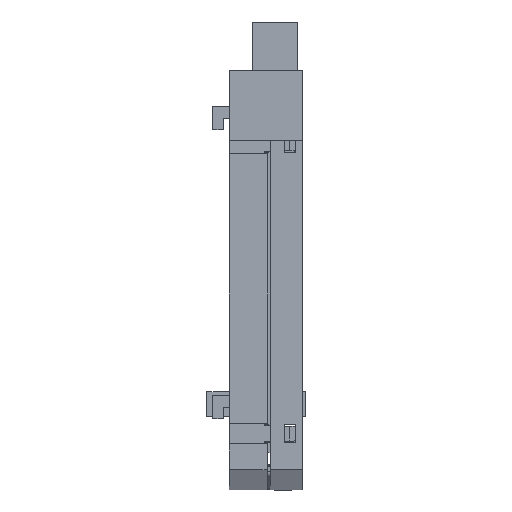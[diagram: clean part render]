
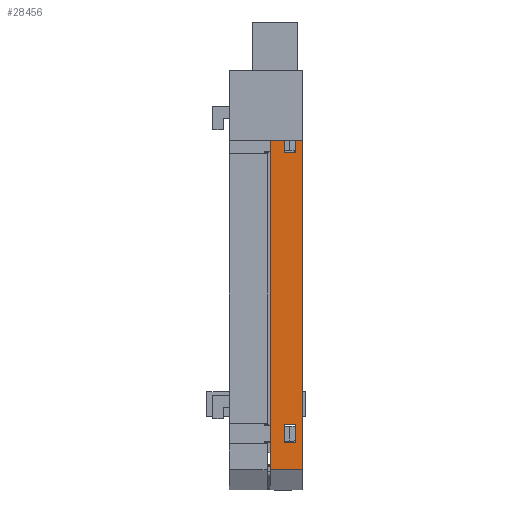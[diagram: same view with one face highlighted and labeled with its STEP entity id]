
A CAD part, front view. The second image highlights one B-rep face of the part: STEP entity #28456.
In plain terms, the highlighted planar face has unit normal (0, -1, 0).
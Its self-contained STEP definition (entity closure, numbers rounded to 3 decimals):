
#219 = FACE_BOUND ( 'NONE', #17106, .T. ) ;
#397 = VERTEX_POINT ( 'NONE', #11373 ) ;
#658 = ORIENTED_EDGE ( 'NONE', *, *, #8067, .T. ) ;
#824 = CARTESIAN_POINT ( 'NONE',  ( 2.4, 0., -60.645 ) ) ;
#897 = VECTOR ( 'NONE', #30969, 1000. ) ;
#1182 = DIRECTION ( 'NONE',  ( 1., 0., 0. ) ) ;
#1310 = EDGE_LOOP ( 'NONE', ( #1733, #25050, #3821, #26102 ) ) ;
#1733 = ORIENTED_EDGE ( 'NONE', *, *, #17854, .T. ) ;
#1747 = VECTOR ( 'NONE', #17191, 1000. ) ;
#1802 = CARTESIAN_POINT ( 'NONE',  ( 2.4, 0., -57.545 ) ) ;
#1806 = EDGE_CURVE ( 'NONE', #14481, #20796, #10193, .T. ) ;
#2235 = DIRECTION ( 'NONE',  ( 0., 0., -1. ) ) ;
#2317 = CARTESIAN_POINT ( 'NONE',  ( 5.5, 0., -65.25 ) ) ;
#2352 = VECTOR ( 'NONE', #12847, 1000. ) ;
#2419 = DIRECTION ( 'NONE',  ( -1., 0., 0. ) ) ;
#2664 = ORIENTED_EDGE ( 'NONE', *, *, #6007, .T. ) ;
#2743 = CARTESIAN_POINT ( 'NONE',  ( 4.4, 0., -57.545 ) ) ;
#3821 = ORIENTED_EDGE ( 'NONE', *, *, #24879, .F. ) ;
#3968 = VECTOR ( 'NONE', #2235, 1000. ) ;
#4788 = CARTESIAN_POINT ( 'NONE',  ( 4.4, 0., -10.945 ) ) ;
#4871 = VECTOR ( 'NONE', #9177, 1000. ) ;
#4964 = DIRECTION ( 'NONE',  ( -1., 0., 0. ) ) ;
#5201 = CARTESIAN_POINT ( 'NONE',  ( 2.4, 0., -57.545 ) ) ;
#5457 = EDGE_CURVE ( 'NONE', #20772, #14481, #30281, .T. ) ;
#5638 = EDGE_CURVE ( 'NONE', #21585, #9687, #26815, .T. ) ;
#5981 = FACE_BOUND ( 'NONE', #6970, .T. ) ;
#6007 = EDGE_CURVE ( 'NONE', #7360, #21585, #12444, .T. ) ;
#6902 = EDGE_CURVE ( 'NONE', #9687, #11118, #27060, .T. ) ;
#6970 = EDGE_LOOP ( 'NONE', ( #658, #2664, #27372, #11218 ) ) ;
#7279 = DIRECTION ( 'NONE',  ( 0., 0., 1. ) ) ;
#7360 = VERTEX_POINT ( 'NONE', #19747 ) ;
#8067 = EDGE_CURVE ( 'NONE', #11118, #7360, #22572, .T. ) ;
#8194 = EDGE_CURVE ( 'NONE', #21940, #397, #19841, .T. ) ;
#8234 = CARTESIAN_POINT ( 'NONE',  ( 2.4, 0., -10.945 ) ) ;
#9177 = DIRECTION ( 'NONE',  ( 1., 0., 0. ) ) ;
#9475 = VECTOR ( 'NONE', #13038, 1000. ) ;
#9687 = VERTEX_POINT ( 'NONE', #2743 ) ;
#9701 = LINE ( 'NONE', #16908, #3968 ) ;
#10193 = LINE ( 'NONE', #25694, #23295 ) ;
#10835 = ORIENTED_EDGE ( 'NONE', *, *, #31674, .T. ) ;
#11118 = VERTEX_POINT ( 'NONE', #12850 ) ;
#11218 = ORIENTED_EDGE ( 'NONE', *, *, #6902, .T. ) ;
#11235 = ORIENTED_EDGE ( 'NONE', *, *, #1806, .T. ) ;
#11272 = CARTESIAN_POINT ( 'NONE',  ( 4.4, 0., -60.645 ) ) ;
#11373 = CARTESIAN_POINT ( 'NONE',  ( 0., 0., -65.25 ) ) ;
#12444 = LINE ( 'NONE', #19601, #31322 ) ;
#12847 = DIRECTION ( 'NONE',  ( 0., 0., -1. ) ) ;
#12850 = CARTESIAN_POINT ( 'NONE',  ( 4.4, 0., -60.645 ) ) ;
#13038 = DIRECTION ( 'NONE',  ( -1., 0., 0. ) ) ;
#13298 = VECTOR ( 'NONE', #18596, 1000. ) ;
#13663 = CARTESIAN_POINT ( 'NONE',  ( 5.5, 0., -65.25 ) ) ;
#13701 = ORIENTED_EDGE ( 'NONE', *, *, #28054, .T. ) ;
#13720 = DIRECTION ( 'NONE',  ( 0., 1., 0. ) ) ;
#14481 = VERTEX_POINT ( 'NONE', #16319 ) ;
#14622 = LINE ( 'NONE', #15213, #2352 ) ;
#14781 = LINE ( 'NONE', #14828, #1747 ) ;
#14828 = CARTESIAN_POINT ( 'NONE',  ( 4.4, 0., -10.945 ) ) ;
#14830 = VERTEX_POINT ( 'NONE', #27613 ) ;
#15181 = LINE ( 'NONE', #22041, #21751 ) ;
#15213 = CARTESIAN_POINT ( 'NONE',  ( 0., 0., 0. ) ) ;
#15607 = VECTOR ( 'NONE', #23188, 1000. ) ;
#15718 = CARTESIAN_POINT ( 'NONE',  ( 2.4, 0., -10.945 ) ) ;
#16071 = CARTESIAN_POINT ( 'NONE',  ( 5.5, 0., 0. ) ) ;
#16319 = CARTESIAN_POINT ( 'NONE',  ( 2.4, 0., -7.845 ) ) ;
#16908 = CARTESIAN_POINT ( 'NONE',  ( 5.5, 0., 0. ) ) ;
#17106 = EDGE_LOOP ( 'NONE', ( #25154, #11235, #10835, #13701 ) ) ;
#17191 = DIRECTION ( 'NONE',  ( 0., 0., -1. ) ) ;
#17204 = EDGE_CURVE ( 'NONE', #19636, #14830, #18519, .T. ) ;
#17854 = EDGE_CURVE ( 'NONE', #14830, #397, #14622, .T. ) ;
#18519 = LINE ( 'NONE', #31843, #30119 ) ;
#18596 = DIRECTION ( 'NONE',  ( -1., 0., 0. ) ) ;
#19601 = CARTESIAN_POINT ( 'NONE',  ( 2.4, 0., -60.645 ) ) ;
#19636 = VERTEX_POINT ( 'NONE', #29812 ) ;
#19747 = CARTESIAN_POINT ( 'NONE',  ( 2.4, 0., -60.645 ) ) ;
#19841 = LINE ( 'NONE', #13663, #13298 ) ;
#20772 = VERTEX_POINT ( 'NONE', #8234 ) ;
#20796 = VERTEX_POINT ( 'NONE', #23173 ) ;
#21585 = VERTEX_POINT ( 'NONE', #5201 ) ;
#21751 = VECTOR ( 'NONE', #4964, 1000. ) ;
#21940 = VERTEX_POINT ( 'NONE', #2317 ) ;
#22041 = CARTESIAN_POINT ( 'NONE',  ( 2.4, 0., -10.945 ) ) ;
#22572 = LINE ( 'NONE', #824, #9475 ) ;
#23173 = CARTESIAN_POINT ( 'NONE',  ( 4.4, 0., -7.845 ) ) ;
#23188 = DIRECTION ( 'NONE',  ( 0., 0., 1. ) ) ;
#23295 = VECTOR ( 'NONE', #1182, 1000. ) ;
#23705 = AXIS2_PLACEMENT_3D ( 'NONE', #16071, #13720, #30943 ) ;
#23814 = VERTEX_POINT ( 'NONE', #4788 ) ;
#24879 = EDGE_CURVE ( 'NONE', #19636, #21940, #9701, .T. ) ;
#25050 = ORIENTED_EDGE ( 'NONE', *, *, #8194, .F. ) ;
#25154 = ORIENTED_EDGE ( 'NONE', *, *, #5457, .T. ) ;
#25694 = CARTESIAN_POINT ( 'NONE',  ( 2.4, 0., -7.845 ) ) ;
#26102 = ORIENTED_EDGE ( 'NONE', *, *, #17204, .T. ) ;
#26815 = LINE ( 'NONE', #1802, #4871 ) ;
#27060 = LINE ( 'NONE', #11272, #897 ) ;
#27372 = ORIENTED_EDGE ( 'NONE', *, *, #5638, .T. ) ;
#27613 = CARTESIAN_POINT ( 'NONE',  ( 0., 0., 0. ) ) ;
#28054 = EDGE_CURVE ( 'NONE', #23814, #20772, #15181, .T. ) ;
#28456 = ADVANCED_FACE ( 'NONE', ( #219, #5981, #31359 ), #28504, .F. ) ;
#28504 = PLANE ( 'NONE',  #23705 ) ;
#29812 = CARTESIAN_POINT ( 'NONE',  ( 5.5, 0., 0. ) ) ;
#30119 = VECTOR ( 'NONE', #2419, 1000. ) ;
#30281 = LINE ( 'NONE', #15718, #15607 ) ;
#30943 = DIRECTION ( 'NONE',  ( 0., 0., 1. ) ) ;
#30969 = DIRECTION ( 'NONE',  ( 0., 0., -1. ) ) ;
#31322 = VECTOR ( 'NONE', #7279, 1000. ) ;
#31359 = FACE_OUTER_BOUND ( 'NONE', #1310, .T. ) ;
#31674 = EDGE_CURVE ( 'NONE', #20796, #23814, #14781, .T. ) ;
#31843 = CARTESIAN_POINT ( 'NONE',  ( 5.5, 0., 0. ) ) ;
